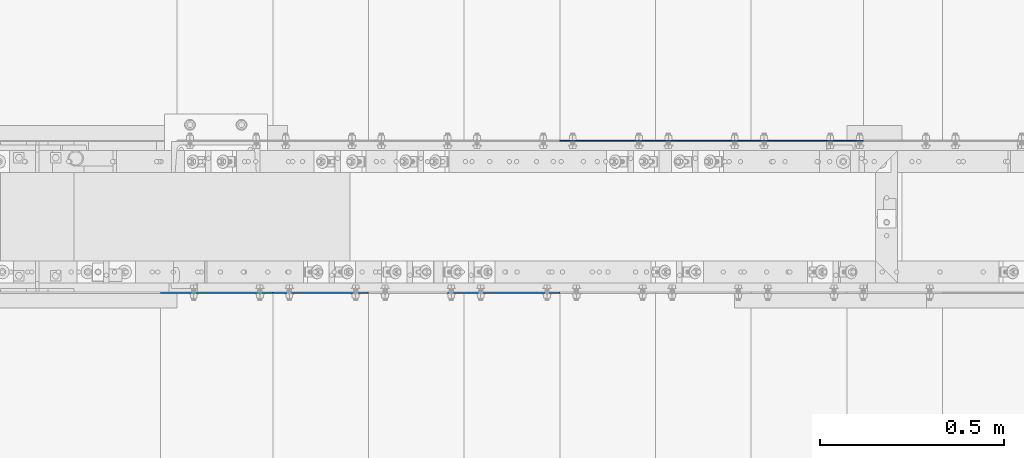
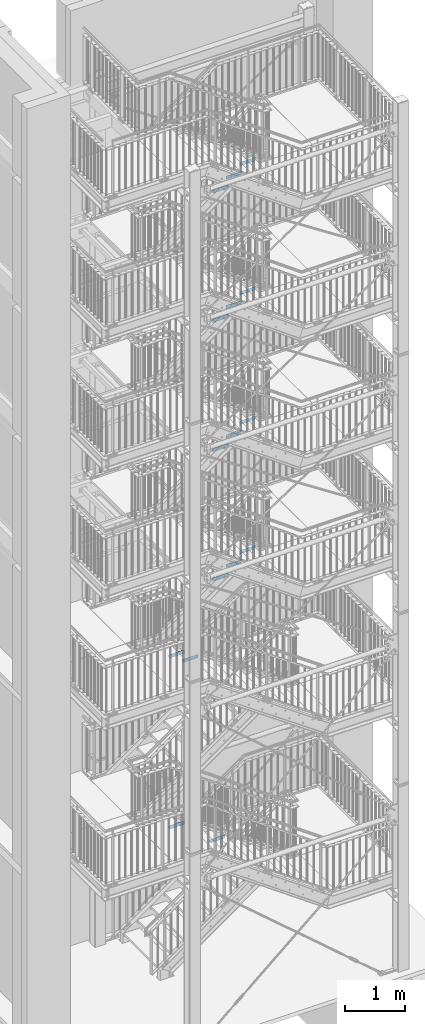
# One storey, part 172 of 825: 16 plates, 32 openings.
"""IFC2X3 building model written with IfcOpenShell, lengths in millimetres."""

import ifcopenshell
import ifcopenshell.guid

model = None  # the IFC model being written
_history = None  # IfcOwnerHistory: only IFC2X3 demands one
_inside = {}  # id of a spatial element -> (the spatial element, [elements in it])
_under = {}  # id of a project, library or spatial element -> (it, [spatial elements below it])
_declared = {}  # id of a project -> (the project, [libraries it declares])
_typed = {}  # id of a type object -> (the type object, [elements of that type])
_made_of = {}  # id of a material, layer set ... -> (it, [elements and type objects made of it])


def new_model(schema):
    """Start an empty IFC model of exactly this schema.

    Asked for "IFC4X3", IfcOpenShell would pick the latest addendum, in which some entities
    have other attributes; the version numbers below select the first issue.
    IFC2X3 requires an IfcOwnerHistory on every rooted entity: one is made here for all.
    """
    global model, _history
    if schema == "IFC4X3":
        model = ifcopenshell.file(schema_version=(4, 3, 0, 0))
    else:
        model = ifcopenshell.file(schema=schema)
    _inside.clear()
    _under.clear()
    _declared.clear()
    _typed.clear()
    _made_of.clear()
    _history = None
    if model.schema == "IFC2X3":
        org = make("IfcOrganization", Name="unknown")
        user = make(
            "IfcPersonAndOrganization",
            ThePerson=make("IfcPerson", FamilyName="unknown"),
            TheOrganization=org,
        )
        app = make(
            "IfcApplication",
            ApplicationDeveloper=org,
            Version="unknown",
            ApplicationFullName="unknown",
            ApplicationIdentifier="unknown",
        )
        _history = make(
            "IfcOwnerHistory",
            OwningUser=user,
            OwningApplication=app,
            ChangeAction="ADDED",
            CreationDate=0,
        )
    return model


def make(cls, **values):
    """One entity of the class cls with the attributes given. An attribute that is None is left unset."""
    return model.create_entity(
        cls, **{name: value for name, value in values.items() if value is not None}
    )


def entity(cls, *values):
    """Any entity or typed value of the class cls, its attributes in the order of the schema. None: left unset."""
    e = model.create_entity(cls)
    for i, value in enumerate(values):
        if value is not None:
            e[i] = value
    return e


def rooted(cls, **values):
    """An entity with a GlobalId (a new one), such as an element, a storey or a relation."""
    return make(cls, GlobalId=ifcopenshell.guid.new(), OwnerHistory=_history, **values)


def si_unit(unit_type, name, prefix=None):
    """IfcSIUnit, for example si_unit("LENGTHUNIT", "METRE", prefix="MILLI")."""
    return make("IfcSIUnit", UnitType=unit_type, Prefix=prefix, Name=name)


def converted_unit(unit_type, name, factor, base, dimensions=None, offset=None):
    """IfcConversionBasedUnit, such as the inch: factor (a typed value) times the base unit."""
    return make(
        "IfcConversionBasedUnit"
        if offset is None
        else "IfcConversionBasedUnitWithOffset",
        ConversionOffset=offset,
        Dimensions=None
        if dimensions is None
        else entity("IfcDimensionalExponents", *dimensions),
        UnitType=unit_type,
        Name=name,
        ConversionFactor=make(
            "IfcMeasureWithUnit", ValueComponent=factor, UnitComponent=base
        ),
    )


def assignment(units):
    """IfcUnitAssignment: the units of a project."""
    return None if units is None else make("IfcUnitAssignment", Units=units)


def point(xyz):
    """IfcCartesianPoint."""
    return None if xyz is None else make("IfcCartesianPoint", Coordinates=xyz)


def direction(xyz):
    """IfcDirection."""
    return None if xyz is None else make("IfcDirection", DirectionRatios=xyz)


def frame(location, z_axis=None, x_axis=None):
    """IfcAxis2Placement3D, a coordinate frame: its origin and axes. An axis left out is left unset."""
    return make(
        "IfcAxis2Placement3D",
        Location=point(location),
        Axis=direction(z_axis),
        RefDirection=direction(x_axis),
    )


def frame_2d(location, x_axis=None):
    """IfcAxis2Placement2D, a coordinate frame in the plane: its origin and x axis."""
    return make(
        "IfcAxis2Placement2D", Location=point(location), RefDirection=direction(x_axis)
    )


def origin():
    """The frame at (0, 0, 0) with its axes left unset."""
    return frame((0.0, 0.0, 0.0))


def origin_with_axes():
    """The frame at (0, 0, 0) with the z axis (0, 0, 1) and the x axis (1, 0, 0) written out."""
    return frame((0.0, 0.0, 0.0), z_axis=(0.0, 0.0, 1.0), x_axis=(1.0, 0.0, 0.0))


def origin_2d_with_axis():
    """The frame at (0, 0) in the plane with the x axis (1, 0) written out."""
    return frame_2d((0.0, 0.0), x_axis=(1.0, 0.0))


def place(relative_to, where):
    """IfcLocalPlacement: puts the frame where relative to a parent placement (None: the world)."""
    return make(
        "IfcLocalPlacement", PlacementRelTo=relative_to, RelativePlacement=where
    )


def context(
    kind, dimensions, precision=None, world=None, true_north=None, identifier=None
):
    """IfcGeometricRepresentationContext, for example the 3D "Model" context."""
    return make(
        "IfcGeometricRepresentationContext",
        ContextIdentifier=identifier,
        ContextType=kind,
        CoordinateSpaceDimension=dimensions,
        Precision=precision,
        WorldCoordinateSystem=world,
        TrueNorth=true_north,
    )


def project(units=None, contexts=None):
    """IfcProject with its units and contexts."""
    return rooted(
        "IfcProject",
        Name="project",
        RepresentationContexts=contexts,
        UnitsInContext=assignment(units),
    )


def spatial(cls, under=None, at=None, **own):
    """A site, building, storey or space (cls), placed at a placement, below another one or the project."""
    s = rooted(cls, ObjectPlacement=at, **own)
    if under is not None:
        _under.setdefault(under.id(), (under, []))[1].append(s)
    return s


def polyline(points):
    """IfcPolyline through the points."""
    return make("IfcPolyline", Points=[point(p) for p in points])


def circle_curve(where, radius):
    """IfcCircle in the frame where."""
    return make("IfcCircle", Position=where, Radius=radius)


def line_curve(start, along, magnitude):
    """IfcLine from a point along a vector."""
    return make(
        "IfcLine",
        Pnt=point(start),
        Dir=make("IfcVector", Orientation=direction(along), Magnitude=magnitude),
    )


def trimmed(basis, trim1, trim2, sense, master):
    """IfcTrimmedCurve: the piece of a basis curve between two trims."""
    return make(
        "IfcTrimmedCurve",
        BasisCurve=basis,
        Trim1=trim1,
        Trim2=trim2,
        SenseAgreement=sense,
        MasterRepresentation=master,
    )


def segment(curve, same_sense, transition):
    """IfcCompositeCurveSegment."""
    return make(
        "IfcCompositeCurveSegment",
        Transition=transition,
        SameSense=same_sense,
        ParentCurve=curve,
    )


def composite_curve(segments, self_intersect=None):
    """IfcCompositeCurve: segments joined end to end."""
    return make("IfcCompositeCurve", Segments=segments, SelfIntersect=self_intersect)


def profile(cls, at=None, kind="AREA", **sizes):
    """A parametric profile (cls). Its sizes go by their IFC names, for example OverallWidth=200.0."""
    return make(cls, ProfileType=kind, Position=at, **sizes)


def circle(**sizes):
    """IfcCircleProfileDef."""
    return profile("IfcCircleProfileDef", **sizes)


def outline(outer, holes=None, kind="AREA"):
    """IfcArbitraryClosedProfileDef: a profile drawn as a closed curve; with holes, ...WithVoids."""
    if holes is None:
        return make("IfcArbitraryClosedProfileDef", ProfileType=kind, OuterCurve=outer)
    return make(
        "IfcArbitraryProfileDefWithVoids",
        ProfileType=kind,
        OuterCurve=outer,
        InnerCurves=holes,
    )


def extrude(swept, where, along, depth):
    """IfcExtrudedAreaSolid: the profile swept, set in the frame where, extruded along a direction by depth."""
    return make(
        "IfcExtrudedAreaSolid",
        SweptArea=swept,
        Position=where,
        ExtrudedDirection=direction(along),
        Depth=depth,
    )


def shape(context_of_items, identifier, shape_type, items):
    """IfcShapeRepresentation: the items that make up one representation, for example the "Body"."""
    return make(
        "IfcShapeRepresentation",
        ContextOfItems=context_of_items,
        RepresentationIdentifier=identifier,
        RepresentationType=shape_type,
        Items=items,
    )


def material(Name=None, Category=None):
    """IfcMaterial."""
    return make("IfcMaterial", Name=Name, Category=Category)


def layer(
    of_material, thickness, ventilated=None, Name=None, Category=None, Priority=None
):
    """IfcMaterialLayer: one layer of a wall or slab, of a material (None: an air gap)."""
    return make(
        "IfcMaterialLayer",
        Material=of_material,
        LayerThickness=thickness,
        IsVentilated=ventilated,
        Name=Name,
        Category=Category,
        Priority=Priority,
    )


def layer_set(layers, Name=None):
    """IfcMaterialLayerSet."""
    return make("IfcMaterialLayerSet", MaterialLayers=layers, LayerSetName=Name)


def made_of(thing, what):
    """Note that an element or type object is made of a material, layer set ...; save() writes the relation."""
    if what is not None:
        _made_of.setdefault(what.id(), (what, []))[1].append(thing)
    return thing


def element(
    cls,
    number,
    at=None,
    inside=None,
    cuts=None,
    type_object=None,
    material=None,
    context=None,
    identifier="Body",
    shape_type=None,
    held_by="IfcProductDefinitionShape",
    body=None,
    shapes=None,
    **own,
):
    """One element of the class cls, such as IfcWall. Its Tag is "e" and its number.

    at: its placement. inside: the storey or other place that contains it. cuts: it is an
    opening in that element (IfcRelVoidsElement). A single representation is given by context,
    identifier, shape_type and body (its items); several are given by shapes. held_by: the class
    of the entity that holds the representations. save() writes the other relations.
    """
    e = rooted(cls, Tag="e%d" % number, ObjectPlacement=at, **own)
    if body is not None:
        shapes = [shape(context, identifier, shape_type, body)]
    if shapes is not None:
        e.Representation = make(held_by, Representations=shapes)
    if inside is not None:
        _inside.setdefault(inside.id(), (inside, []))[1].append(e)
    if cuts is not None:
        rooted(
            "IfcRelVoidsElement", RelatingBuildingElement=cuts, RelatedOpeningElement=e
        )
    if type_object is not None:
        _typed.setdefault(type_object.id(), (type_object, []))[1].append(e)
    return made_of(e, material)


def aggregate(whole, parts):
    """IfcRelAggregates: a whole, such as a stair, and the parts it consists of."""
    return rooted("IfcRelAggregates", RelatingObject=whole, RelatedObjects=parts)


def save(model, path):
    """Write the relations noted so far, then the file.

    IfcRelAggregates (storeys below a building ...), IfcRelContainedInSpatialStructure (elements
    in a storey), IfcRelDefinesByType, IfcRelAssociatesMaterial and IfcRelDeclares: one each for
    every whole, place, type object, material and project.
    """
    for whole, parts in _under.values():
        aggregate(whole, parts)
    for where, things in _inside.values():
        rooted(
            "IfcRelContainedInSpatialStructure",
            RelatedElements=things,
            RelatingStructure=where,
        )
    for kind, things in _typed.values():
        rooted("IfcRelDefinesByType", RelatedObjects=things, RelatingType=kind)
    for what, things in _made_of.values():
        rooted("IfcRelAssociatesMaterial", RelatedObjects=things, RelatingMaterial=what)
    for by, libraries in _declared.values():
        rooted("IfcRelDeclares", RelatingContext=by, RelatedDefinitions=libraries)
    model.write(path)


model = new_model("IFC2X3")

# Units and contexts
model_context = context("Model", 3, precision=1e-09, world=origin_with_axes())
ifc_project = project(units=[si_unit("LENGTHUNIT", "METRE", prefix="MILLI"), si_unit("AREAUNIT", "SQUARE_METRE"), si_unit("VOLUMEUNIT", "CUBIC_METRE"), converted_unit("PLANEANGLEUNIT", "DEGREE", entity("IfcPlaneAngleMeasure", 0.01745329), si_unit("PLANEANGLEUNIT", "RADIAN"), dimensions=[0, 0, 0, 0, 0, 0, 0])], contexts=[model_context])

# Site, building, storey
site_placement = place(None, origin_with_axes())
site = spatial("IfcSite", under=ifc_project, at=site_placement, Name="Cnopf'sche Kinderklinik", CompositionType="ELEMENT")
building_placement = place(site_placement, origin_with_axes())
building = spatial("IfcBuilding", under=site, at=building_placement, Name="Struktur 1", CompositionType="ELEMENT")
storey_placement = place(building_placement, origin_with_axes())
storey = spatial("IfcBuildingStorey", under=building, at=storey_placement, Name="Default Storey", CompositionType="ELEMENT", Elevation=0.0)

# Plate, openings
ifc_material = material(Name="S235JR")
ifc_layer = layer(ifc_material, 3.0)
ifc_layer_set = layer_set([ifc_layer], Name="S235JR")
plate_1_placement = place(None, frame((6276.713402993, 6149.736971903, 10742.571429), z_axis=(0.0, -1.0, 0.0), x_axis=(0.0, 0.0, -1.0)))
plate_1 = element("IfcPlate", 1, at=plate_1_placement, inside=storey, material=ifc_layer_set, Name="Grate_Step#24", ObjectType="Grate_Step#24", context=model_context, shape_type="SweptSolid", body=[
    extrude(outline(polyline([(0.0, 0.0), (70.0, 0.0), (70.0, 275.0), (40.0, 305.0), (0.0, 305.0), (0.0, 0.0)])), origin_with_axes(), (0.0, 0.0, 1.0), 3.0),
])
opening_1_placement = place(plate_1_placement, frame((55.0, 215.0, -0.5), z_axis=(0.0, 0.0, 1.0), x_axis=(0.0, 1.0, 0.0)))
element("IfcOpeningElement", 2, at=opening_1_placement, cuts=plate_1, ObjectType="Opening", context=model_context, shape_type="SweptSolid", body=[
    extrude(outline(composite_curve([segment(trimmed(line_curve((-9.5, -7.001), (1.0, 0.0), 19.0), [point((-9.5, -7.001))], [point((9.5, -7.001))], True, "CARTESIAN"), True, "CONTINUOUS"), segment(trimmed(circle_curve(frame_2d((9.5, 0.0), x_axis=(1.0, 0.0)), 7.001), [point((9.5, -7.001))], [point((9.5, 7.001))], True, "CARTESIAN"), True, "CONTINUOUS"), segment(trimmed(line_curve((9.5, 7.001), (-1.0, 0.0), 19.0), [point((9.5, 7.001))], [point((-9.5, 7.001))], True, "CARTESIAN"), True, "CONTINUOUS"), segment(trimmed(circle_curve(frame_2d((-9.5, 0.0), x_axis=(1.0, 0.0)), 7.001), [point((-9.5, 7.001))], [point((-9.5, -7.001))], True, "CARTESIAN"), True, "CONTINUOUS")], self_intersect=False)), origin(), (0.0, 0.0, 1.0), 4.0),
])
opening_2_placement = place(plate_1_placement, frame((55.0, 35.0, -0.5), z_axis=(0.0, 0.0, 1.0), x_axis=(0.0, 1.0, 0.0)))
element("IfcOpeningElement", 3, at=opening_2_placement, cuts=plate_1, ObjectType="Opening", context=model_context, shape_type="SweptSolid", body=[
    extrude(circle(Radius=7.001, at=origin_2d_with_axis()), origin(), (0.0, 0.0, 1.0), 4.0),
])

plate_2_placement = place(None, frame((6796.713402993, 6149.736971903, 11117.8571432), z_axis=(0.0, -1.0, 0.0), x_axis=(0.0, 0.0, -1.0)))
plate_2 = element("IfcPlate", 4, at=plate_2_placement, inside=storey, material=ifc_layer_set, Name="Grate_Step#38", ObjectType="Grate_Step#38", context=model_context, shape_type="SweptSolid", body=[
    extrude(outline(polyline([(0.0, 0.0), (70.0, 0.0), (70.0, 275.0), (40.0, 305.0), (0.0, 305.0), (0.0, 0.0)])), origin_with_axes(), (0.0, 0.0, 1.0), 3.0),
])
opening_3_placement = place(plate_2_placement, frame((55.0, 35.0, -0.5), z_axis=(0.0, 0.0, 1.0), x_axis=(0.0, 1.0, 0.0)))
element("IfcOpeningElement", 5, at=opening_3_placement, cuts=plate_2, ObjectType="Opening", context=model_context, shape_type="SweptSolid", body=[
    extrude(circle(Radius=7.001, at=origin_2d_with_axis()), origin(), (0.0, 0.0, 1.0), 4.0),
])
opening_4_placement = place(plate_2_placement, frame((55.0, 215.0, -0.5), z_axis=(0.0, 0.0, 1.0), x_axis=(0.0, 1.0, 0.0)))
element("IfcOpeningElement", 6, at=opening_4_placement, cuts=plate_2, ObjectType="Opening", context=model_context, shape_type="SweptSolid", body=[
    extrude(outline(composite_curve([segment(trimmed(line_curve((-9.5, -7.001), (1.0, 0.0), 19.0), [point((-9.5, -7.001))], [point((9.5, -7.001))], True, "CARTESIAN"), True, "CONTINUOUS"), segment(trimmed(circle_curve(frame_2d((9.5, 0.0), x_axis=(1.0, 0.0)), 7.001), [point((9.5, -7.001))], [point((9.5, 7.001))], True, "CARTESIAN"), True, "CONTINUOUS"), segment(trimmed(line_curve((9.5, 7.001), (-1.0, 0.0), 19.0), [point((9.5, 7.001))], [point((-9.5, 7.001))], True, "CARTESIAN"), True, "CONTINUOUS"), segment(trimmed(circle_curve(frame_2d((-9.5, 0.0), x_axis=(1.0, 0.0)), 7.001), [point((-9.5, 7.001))], [point((-9.5, -7.001))], True, "CARTESIAN"), True, "CONTINUOUS")], self_intersect=False)), origin(), (0.0, 0.0, 1.0), 4.0),
])

plate_3_placement = place(None, frame((6536.713402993, 6149.736971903, 10930.2142861), z_axis=(0.0, -1.0, 0.0), x_axis=(0.0, 0.0, -1.0)))
plate_3 = element("IfcPlate", 7, at=plate_3_placement, inside=storey, material=ifc_layer_set, Name="Grate_Step#31", ObjectType="Grate_Step#31", context=model_context, shape_type="SweptSolid", body=[
    extrude(outline(polyline([(0.0, 0.0), (70.0, 0.0), (70.0, 275.0), (40.0, 305.0), (0.0, 305.0), (0.0, 0.0)])), origin_with_axes(), (0.0, 0.0, 1.0), 3.0),
])
opening_5_placement = place(plate_3_placement, frame((55.0, 35.0, -0.5), z_axis=(0.0, 0.0, 1.0), x_axis=(0.0, 1.0, 0.0)))
element("IfcOpeningElement", 8, at=opening_5_placement, cuts=plate_3, ObjectType="Opening", context=model_context, shape_type="SweptSolid", body=[
    extrude(circle(Radius=7.001, at=origin_2d_with_axis()), origin(), (0.0, 0.0, 1.0), 4.0),
])
opening_6_placement = place(plate_3_placement, frame((55.0, 215.0, -0.5), z_axis=(0.0, 0.0, 1.0), x_axis=(0.0, 1.0, 0.0)))
element("IfcOpeningElement", 9, at=opening_6_placement, cuts=plate_3, ObjectType="Opening", context=model_context, shape_type="SweptSolid", body=[
    extrude(outline(composite_curve([segment(trimmed(line_curve((-9.5, -7.001), (1.0, 0.0), 19.0), [point((-9.5, -7.001))], [point((9.5, -7.001))], True, "CARTESIAN"), True, "CONTINUOUS"), segment(trimmed(circle_curve(frame_2d((9.5, 0.0), x_axis=(1.0, 0.0)), 7.001), [point((9.5, -7.001))], [point((9.5, 7.001))], True, "CARTESIAN"), True, "CONTINUOUS"), segment(trimmed(line_curve((9.5, 7.001), (-1.0, 0.0), 19.0), [point((9.5, 7.001))], [point((-9.5, 7.001))], True, "CARTESIAN"), True, "CONTINUOUS"), segment(trimmed(circle_curve(frame_2d((-9.5, 0.0), x_axis=(1.0, 0.0)), 7.001), [point((-9.5, 7.001))], [point((-9.5, -7.001))], True, "CARTESIAN"), True, "CONTINUOUS")], self_intersect=False)), origin(), (0.0, 0.0, 1.0), 4.0),
])

plate_4_placement = place(None, frame((6276.713402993, 6149.736971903, 8112.0), z_axis=(0.0, -1.0, 0.0), x_axis=(0.0, 0.0, -1.0)))
plate_4 = element("IfcPlate", 10, at=plate_4_placement, inside=storey, material=ifc_layer_set, Name="Grate_Step#24", ObjectType="Grate_Step#24", context=model_context, shape_type="SweptSolid", body=[
    extrude(outline(polyline([(0.0, 0.0), (70.0, 0.0), (70.0, 275.0), (40.0, 305.0), (0.0, 305.0), (0.0, 0.0)])), origin_with_axes(), (0.0, 0.0, 1.0), 3.0),
])
opening_7_placement = place(plate_4_placement, frame((55.0, 35.0, -0.5), z_axis=(0.0, 0.0, 1.0), x_axis=(0.0, 1.0, 0.0)))
element("IfcOpeningElement", 11, at=opening_7_placement, cuts=plate_4, ObjectType="Opening", context=model_context, shape_type="SweptSolid", body=[
    extrude(circle(Radius=7.001, at=origin_2d_with_axis()), origin(), (0.0, 0.0, 1.0), 4.0),
])
opening_8_placement = place(plate_4_placement, frame((55.0, 215.0, -0.5), z_axis=(0.0, 0.0, 1.0), x_axis=(0.0, 1.0, 0.0)))
element("IfcOpeningElement", 12, at=opening_8_placement, cuts=plate_4, ObjectType="Opening", context=model_context, shape_type="SweptSolid", body=[
    extrude(outline(composite_curve([segment(trimmed(line_curve((-9.5, -7.001), (1.0, 0.0), 19.0), [point((-9.5, -7.001))], [point((9.5, -7.001))], True, "CARTESIAN"), True, "CONTINUOUS"), segment(trimmed(circle_curve(frame_2d((9.5, 0.0), x_axis=(1.0, 0.0)), 7.001), [point((9.5, -7.001))], [point((9.5, 7.001))], True, "CARTESIAN"), True, "CONTINUOUS"), segment(trimmed(line_curve((9.5, 7.001), (-1.0, 0.0), 19.0), [point((9.5, 7.001))], [point((-9.5, 7.001))], True, "CARTESIAN"), True, "CONTINUOUS"), segment(trimmed(circle_curve(frame_2d((-9.5, 0.0), x_axis=(1.0, 0.0)), 7.001), [point((-9.5, 7.001))], [point((-9.5, -7.001))], True, "CARTESIAN"), True, "CONTINUOUS")], self_intersect=False)), origin(), (0.0, 0.0, 1.0), 4.0),
])

plate_5_placement = place(None, frame((6536.713402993, 6149.736971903, 8300.0), z_axis=(0.0, -1.0, 0.0), x_axis=(0.0, 0.0, -1.0)))
plate_5 = element("IfcPlate", 13, at=plate_5_placement, inside=storey, material=ifc_layer_set, Name="Grate_Step#31", ObjectType="Grate_Step#31", context=model_context, shape_type="SweptSolid", body=[
    extrude(outline(polyline([(0.0, 0.0), (70.0, 0.0), (70.0, 275.0), (40.0, 305.0), (0.0, 305.0), (0.0, 0.0)])), origin_with_axes(), (0.0, 0.0, 1.0), 3.0),
])
opening_9_placement = place(plate_5_placement, frame((55.0, 215.0, -0.5), z_axis=(0.0, 0.0, 1.0), x_axis=(0.0, 1.0, 0.0)))
element("IfcOpeningElement", 14, at=opening_9_placement, cuts=plate_5, ObjectType="Opening", context=model_context, shape_type="SweptSolid", body=[
    extrude(outline(composite_curve([segment(trimmed(line_curve((-9.5, -7.001), (1.0, 0.0), 19.0), [point((-9.5, -7.001))], [point((9.5, -7.001))], True, "CARTESIAN"), True, "CONTINUOUS"), segment(trimmed(circle_curve(frame_2d((9.5, 0.0), x_axis=(1.0, 0.0)), 7.001), [point((9.5, -7.001))], [point((9.5, 7.001))], True, "CARTESIAN"), True, "CONTINUOUS"), segment(trimmed(line_curve((9.5, 7.001), (-1.0, 0.0), 19.0), [point((9.5, 7.001))], [point((-9.5, 7.001))], True, "CARTESIAN"), True, "CONTINUOUS"), segment(trimmed(circle_curve(frame_2d((-9.5, 0.0), x_axis=(1.0, 0.0)), 7.001), [point((-9.5, 7.001))], [point((-9.5, -7.001))], True, "CARTESIAN"), True, "CONTINUOUS")], self_intersect=False)), origin(), (0.0, 0.0, 1.0), 4.0),
])
opening_10_placement = place(plate_5_placement, frame((55.0, 35.0, -0.5), z_axis=(0.0, 0.0, 1.0), x_axis=(0.0, 1.0, 0.0)))
element("IfcOpeningElement", 15, at=opening_10_placement, cuts=plate_5, ObjectType="Opening", context=model_context, shape_type="SweptSolid", body=[
    extrude(circle(Radius=7.001, at=origin_2d_with_axis()), origin(), (0.0, 0.0, 1.0), 4.0),
])

plate_6_placement = place(None, frame((6796.713402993, 6149.736971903, 8488.0), z_axis=(0.0, -1.0, 0.0), x_axis=(0.0, 0.0, -1.0)))
plate_6 = element("IfcPlate", 16, at=plate_6_placement, inside=storey, material=ifc_layer_set, Name="Grate_Step#38", ObjectType="Grate_Step#38", context=model_context, shape_type="SweptSolid", body=[
    extrude(outline(polyline([(0.0, 0.0), (70.0, 0.0), (70.0, 275.0), (40.0, 305.0), (0.0, 305.0), (0.0, 0.0)])), origin_with_axes(), (0.0, 0.0, 1.0), 3.0),
])
opening_11_placement = place(plate_6_placement, frame((55.0, 215.0, -0.5), z_axis=(0.0, 0.0, 1.0), x_axis=(0.0, 1.0, 0.0)))
element("IfcOpeningElement", 17, at=opening_11_placement, cuts=plate_6, ObjectType="Opening", context=model_context, shape_type="SweptSolid", body=[
    extrude(outline(composite_curve([segment(trimmed(line_curve((-9.5, -7.001), (1.0, 0.0), 19.0), [point((-9.5, -7.001))], [point((9.5, -7.001))], True, "CARTESIAN"), True, "CONTINUOUS"), segment(trimmed(circle_curve(frame_2d((9.5, 0.0), x_axis=(1.0, 0.0)), 7.001), [point((9.5, -7.001))], [point((9.5, 7.001))], True, "CARTESIAN"), True, "CONTINUOUS"), segment(trimmed(line_curve((9.5, 7.001), (-1.0, 0.0), 19.0), [point((9.5, 7.001))], [point((-9.5, 7.001))], True, "CARTESIAN"), True, "CONTINUOUS"), segment(trimmed(circle_curve(frame_2d((-9.5, 0.0), x_axis=(1.0, 0.0)), 7.001), [point((-9.5, 7.001))], [point((-9.5, -7.001))], True, "CARTESIAN"), True, "CONTINUOUS")], self_intersect=False)), origin(), (0.0, 0.0, 1.0), 4.0),
])
opening_12_placement = place(plate_6_placement, frame((55.0, 35.0, -0.5), z_axis=(0.0, 0.0, 1.0), x_axis=(0.0, 1.0, 0.0)))
element("IfcOpeningElement", 18, at=opening_12_placement, cuts=plate_6, ObjectType="Opening", context=model_context, shape_type="SweptSolid", body=[
    extrude(circle(Radius=7.001, at=origin_2d_with_axis()), origin(), (0.0, 0.0, 1.0), 4.0),
])

plate_7_placement = place(None, frame((6276.713402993, 6149.736971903, 13371.857143), z_axis=(0.0, -1.0, 0.0), x_axis=(0.0, 0.0, -1.0)))
plate_7 = element("IfcPlate", 19, at=plate_7_placement, inside=storey, material=ifc_layer_set, Name="Grate_Step#24", ObjectType="Grate_Step#24", context=model_context, shape_type="SweptSolid", body=[
    extrude(outline(polyline([(0.0, 0.0), (70.0, 0.0), (70.0, 275.0), (40.0, 305.0), (0.0, 305.0), (0.0, 0.0)])), origin_with_axes(), (0.0, 0.0, 1.0), 3.0),
])
opening_13_placement = place(plate_7_placement, frame((55.0, 35.0, -0.5), z_axis=(0.0, 0.0, 1.0), x_axis=(0.0, 1.0, 0.0)))
element("IfcOpeningElement", 20, at=opening_13_placement, cuts=plate_7, ObjectType="Opening", context=model_context, shape_type="SweptSolid", body=[
    extrude(circle(Radius=7.001, at=origin_2d_with_axis()), origin(), (0.0, 0.0, 1.0), 4.0),
])
opening_14_placement = place(plate_7_placement, frame((55.0, 215.0, -0.5), z_axis=(0.0, 0.0, 1.0), x_axis=(0.0, 1.0, 0.0)))
element("IfcOpeningElement", 21, at=opening_14_placement, cuts=plate_7, ObjectType="Opening", context=model_context, shape_type="SweptSolid", body=[
    extrude(outline(composite_curve([segment(trimmed(line_curve((-9.5, -7.001), (1.0, 0.0), 19.0), [point((-9.5, -7.001))], [point((9.5, -7.001))], True, "CARTESIAN"), True, "CONTINUOUS"), segment(trimmed(circle_curve(frame_2d((9.5, 0.0), x_axis=(1.0, 0.0)), 7.001), [point((9.5, -7.001))], [point((9.5, 7.001))], True, "CARTESIAN"), True, "CONTINUOUS"), segment(trimmed(line_curve((9.5, 7.001), (-1.0, 0.0), 19.0), [point((9.5, 7.001))], [point((-9.5, 7.001))], True, "CARTESIAN"), True, "CONTINUOUS"), segment(trimmed(circle_curve(frame_2d((-9.5, 0.0), x_axis=(1.0, 0.0)), 7.001), [point((-9.5, 7.001))], [point((-9.5, -7.001))], True, "CARTESIAN"), True, "CONTINUOUS")], self_intersect=False)), origin(), (0.0, 0.0, 1.0), 4.0),
])

plate_8_placement = place(None, frame((6536.713402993, 6149.736971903, 13560.0714287), z_axis=(0.0, -1.0, 0.0), x_axis=(0.0, 0.0, -1.0)))
plate_8 = element("IfcPlate", 22, at=plate_8_placement, inside=storey, material=ifc_layer_set, Name="Grate_Step#31", ObjectType="Grate_Step#31", context=model_context, shape_type="SweptSolid", body=[
    extrude(outline(polyline([(0.0, 0.0), (70.0, 0.0), (70.0, 275.0), (40.0, 305.0), (0.0, 305.0), (0.0, 0.0)])), origin_with_axes(), (0.0, 0.0, 1.0), 3.0),
])
opening_15_placement = place(plate_8_placement, frame((55.0, 35.0, -0.5), z_axis=(0.0, 0.0, 1.0), x_axis=(0.0, 1.0, 0.0)))
element("IfcOpeningElement", 23, at=opening_15_placement, cuts=plate_8, ObjectType="Opening", context=model_context, shape_type="SweptSolid", body=[
    extrude(circle(Radius=7.001, at=origin_2d_with_axis()), origin(), (0.0, 0.0, 1.0), 4.0),
])
opening_16_placement = place(plate_8_placement, frame((55.0, 215.0, -0.5), z_axis=(0.0, 0.0, 1.0), x_axis=(0.0, 1.0, 0.0)))
element("IfcOpeningElement", 24, at=opening_16_placement, cuts=plate_8, ObjectType="Opening", context=model_context, shape_type="SweptSolid", body=[
    extrude(outline(composite_curve([segment(trimmed(line_curve((-9.5, -7.001), (1.0, 0.0), 19.0), [point((-9.5, -7.001))], [point((9.5, -7.001))], True, "CARTESIAN"), True, "CONTINUOUS"), segment(trimmed(circle_curve(frame_2d((9.5, 0.0), x_axis=(1.0, 0.0)), 7.001), [point((9.5, -7.001))], [point((9.5, 7.001))], True, "CARTESIAN"), True, "CONTINUOUS"), segment(trimmed(line_curve((9.5, 7.001), (-1.0, 0.0), 19.0), [point((9.5, 7.001))], [point((-9.5, 7.001))], True, "CARTESIAN"), True, "CONTINUOUS"), segment(trimmed(circle_curve(frame_2d((-9.5, 0.0), x_axis=(1.0, 0.0)), 7.001), [point((-9.5, 7.001))], [point((-9.5, -7.001))], True, "CARTESIAN"), True, "CONTINUOUS")], self_intersect=False)), origin(), (0.0, 0.0, 1.0), 4.0),
])

plate_9_placement = place(None, frame((6796.713402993, 6149.736971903, 13748.2857144), z_axis=(0.0, -1.0, 0.0), x_axis=(0.0, 0.0, -1.0)))
plate_9 = element("IfcPlate", 25, at=plate_9_placement, inside=storey, material=ifc_layer_set, Name="Grate_Step#38", ObjectType="Grate_Step#38", context=model_context, shape_type="SweptSolid", body=[
    extrude(outline(polyline([(0.0, 0.0), (70.0, 0.0), (70.0, 275.0), (40.0, 305.0), (0.0, 305.0), (0.0, 0.0)])), origin_with_axes(), (0.0, 0.0, 1.0), 3.0),
])
opening_17_placement = place(plate_9_placement, frame((55.0, 35.0, -0.5), z_axis=(0.0, 0.0, 1.0), x_axis=(0.0, 1.0, 0.0)))
element("IfcOpeningElement", 26, at=opening_17_placement, cuts=plate_9, ObjectType="Opening", context=model_context, shape_type="SweptSolid", body=[
    extrude(circle(Radius=7.001, at=origin_2d_with_axis()), origin(), (0.0, 0.0, 1.0), 4.0),
])
opening_18_placement = place(plate_9_placement, frame((55.0, 215.0, -0.5), z_axis=(0.0, 0.0, 1.0), x_axis=(0.0, 1.0, 0.0)))
element("IfcOpeningElement", 27, at=opening_18_placement, cuts=plate_9, ObjectType="Opening", context=model_context, shape_type="SweptSolid", body=[
    extrude(outline(composite_curve([segment(trimmed(line_curve((-9.5, -7.001), (1.0, 0.0), 19.0), [point((-9.5, -7.001))], [point((9.5, -7.001))], True, "CARTESIAN"), True, "CONTINUOUS"), segment(trimmed(circle_curve(frame_2d((9.5, 0.0), x_axis=(1.0, 0.0)), 7.001), [point((9.5, -7.001))], [point((9.5, 7.001))], True, "CARTESIAN"), True, "CONTINUOUS"), segment(trimmed(line_curve((9.5, 7.001), (-1.0, 0.0), 19.0), [point((9.5, 7.001))], [point((-9.5, 7.001))], True, "CARTESIAN"), True, "CONTINUOUS"), segment(trimmed(circle_curve(frame_2d((-9.5, 0.0), x_axis=(1.0, 0.0)), 7.001), [point((-9.5, 7.001))], [point((-9.5, -7.001))], True, "CARTESIAN"), True, "CONTINUOUS")], self_intersect=False)), origin(), (0.0, 0.0, 1.0), 4.0),
])

plate_10_placement = place(None, frame((6276.713402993, 6149.736971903, 16002.571429), z_axis=(0.0, -1.0, 0.0), x_axis=(0.0, 0.0, -1.0)))
plate_10 = element("IfcPlate", 28, at=plate_10_placement, inside=storey, material=ifc_layer_set, Name="Grate_Step#24", ObjectType="Grate_Step#24", context=model_context, shape_type="SweptSolid", body=[
    extrude(outline(polyline([(0.0, 0.0), (70.0, 0.0), (70.0, 275.0), (40.0, 305.0), (0.0, 305.0), (0.0, 0.0)])), origin_with_axes(), (0.0, 0.0, 1.0), 3.0),
])
opening_19_placement = place(plate_10_placement, frame((55.0, 35.0, -0.5), z_axis=(0.0, 0.0, 1.0), x_axis=(0.0, 1.0, 0.0)))
element("IfcOpeningElement", 29, at=opening_19_placement, cuts=plate_10, ObjectType="Opening", context=model_context, shape_type="SweptSolid", body=[
    extrude(circle(Radius=7.001, at=origin_2d_with_axis()), origin(), (0.0, 0.0, 1.0), 4.0),
])
opening_20_placement = place(plate_10_placement, frame((55.0, 215.0, -0.5), z_axis=(0.0, 0.0, 1.0), x_axis=(0.0, 1.0, 0.0)))
element("IfcOpeningElement", 30, at=opening_20_placement, cuts=plate_10, ObjectType="Opening", context=model_context, shape_type="SweptSolid", body=[
    extrude(outline(composite_curve([segment(trimmed(line_curve((-9.5, -7.001), (1.0, 0.0), 19.0), [point((-9.5, -7.001))], [point((9.5, -7.001))], True, "CARTESIAN"), True, "CONTINUOUS"), segment(trimmed(circle_curve(frame_2d((9.5, 0.0), x_axis=(1.0, 0.0)), 7.001), [point((9.5, -7.001))], [point((9.5, 7.001))], True, "CARTESIAN"), True, "CONTINUOUS"), segment(trimmed(line_curve((9.5, 7.001), (-1.0, 0.0), 19.0), [point((9.5, 7.001))], [point((-9.5, 7.001))], True, "CARTESIAN"), True, "CONTINUOUS"), segment(trimmed(circle_curve(frame_2d((-9.5, 0.0), x_axis=(1.0, 0.0)), 7.001), [point((-9.5, 7.001))], [point((-9.5, -7.001))], True, "CARTESIAN"), True, "CONTINUOUS")], self_intersect=False)), origin(), (0.0, 0.0, 1.0), 4.0),
])

plate_11_placement = place(None, frame((6536.713402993, 6149.736971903, 16189.7142861), z_axis=(0.0, -1.0, 0.0), x_axis=(0.0, 0.0, -1.0)))
plate_11 = element("IfcPlate", 31, at=plate_11_placement, inside=storey, material=ifc_layer_set, Name="Grate_Step#31", ObjectType="Grate_Step#31", context=model_context, shape_type="SweptSolid", body=[
    extrude(outline(polyline([(0.0, 0.0), (70.0, 0.0), (70.0, 275.0), (40.0, 305.0), (0.0, 305.0), (0.0, 0.0)])), origin_with_axes(), (0.0, 0.0, 1.0), 3.0),
])
opening_21_placement = place(plate_11_placement, frame((55.0, 35.0, -0.5), z_axis=(0.0, 0.0, 1.0), x_axis=(0.0, 1.0, 0.0)))
element("IfcOpeningElement", 32, at=opening_21_placement, cuts=plate_11, ObjectType="Opening", context=model_context, shape_type="SweptSolid", body=[
    extrude(circle(Radius=7.001, at=origin_2d_with_axis()), origin(), (0.0, 0.0, 1.0), 4.0),
])
opening_22_placement = place(plate_11_placement, frame((55.0, 215.0, -0.5), z_axis=(0.0, 0.0, 1.0), x_axis=(0.0, 1.0, 0.0)))
element("IfcOpeningElement", 33, at=opening_22_placement, cuts=plate_11, ObjectType="Opening", context=model_context, shape_type="SweptSolid", body=[
    extrude(outline(composite_curve([segment(trimmed(line_curve((-9.5, -7.001), (1.0, 0.0), 19.0), [point((-9.5, -7.001))], [point((9.5, -7.001))], True, "CARTESIAN"), True, "CONTINUOUS"), segment(trimmed(circle_curve(frame_2d((9.5, 0.0), x_axis=(1.0, 0.0)), 7.001), [point((9.5, -7.001))], [point((9.5, 7.001))], True, "CARTESIAN"), True, "CONTINUOUS"), segment(trimmed(line_curve((9.5, 7.001), (-1.0, 0.0), 19.0), [point((9.5, 7.001))], [point((-9.5, 7.001))], True, "CARTESIAN"), True, "CONTINUOUS"), segment(trimmed(circle_curve(frame_2d((-9.5, 0.0), x_axis=(1.0, 0.0)), 7.001), [point((-9.5, 7.001))], [point((-9.5, -7.001))], True, "CARTESIAN"), True, "CONTINUOUS")], self_intersect=False)), origin(), (0.0, 0.0, 1.0), 4.0),
])

plate_12_placement = place(None, frame((6796.713402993, 6149.736971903, 16376.8571432), z_axis=(0.0, -1.0, 0.0), x_axis=(0.0, 0.0, -1.0)))
plate_12 = element("IfcPlate", 34, at=plate_12_placement, inside=storey, material=ifc_layer_set, Name="Grate_Step#38", ObjectType="Grate_Step#38", context=model_context, shape_type="SweptSolid", body=[
    extrude(outline(polyline([(0.0, 0.0), (70.0, 0.0), (70.0, 275.0), (40.0, 305.0), (0.0, 305.0), (0.0, 0.0)])), origin_with_axes(), (0.0, 0.0, 1.0), 3.0),
])
opening_23_placement = place(plate_12_placement, frame((55.0, 215.0, -0.5), z_axis=(0.0, 0.0, 1.0), x_axis=(0.0, 1.0, 0.0)))
element("IfcOpeningElement", 35, at=opening_23_placement, cuts=plate_12, ObjectType="Opening", context=model_context, shape_type="SweptSolid", body=[
    extrude(outline(composite_curve([segment(trimmed(line_curve((-9.5, -7.001), (1.0, 0.0), 19.0), [point((-9.5, -7.001))], [point((9.5, -7.001))], True, "CARTESIAN"), True, "CONTINUOUS"), segment(trimmed(circle_curve(frame_2d((9.5, 0.0), x_axis=(1.0, 0.0)), 7.001), [point((9.5, -7.001))], [point((9.5, 7.001))], True, "CARTESIAN"), True, "CONTINUOUS"), segment(trimmed(line_curve((9.5, 7.001), (-1.0, 0.0), 19.0), [point((9.5, 7.001))], [point((-9.5, 7.001))], True, "CARTESIAN"), True, "CONTINUOUS"), segment(trimmed(circle_curve(frame_2d((-9.5, 0.0), x_axis=(1.0, 0.0)), 7.001), [point((-9.5, 7.001))], [point((-9.5, -7.001))], True, "CARTESIAN"), True, "CONTINUOUS")], self_intersect=False)), origin(), (0.0, 0.0, 1.0), 4.0),
])
opening_24_placement = place(plate_12_placement, frame((55.0, 35.0, -0.5), z_axis=(0.0, 0.0, 1.0), x_axis=(0.0, 1.0, 0.0)))
element("IfcOpeningElement", 36, at=opening_24_placement, cuts=plate_12, ObjectType="Opening", context=model_context, shape_type="SweptSolid", body=[
    extrude(circle(Radius=7.001, at=origin_2d_with_axis()), origin(), (0.0, 0.0, 1.0), 4.0),
])

plate_13_placement = place(None, frame((5496.713402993, 5733.736971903, 7177.2105263), z_axis=(0.0, 1.0, 0.0), x_axis=(0.0, 0.0, -1.0)))
plate_13 = element("IfcPlate", 37, at=plate_13_placement, inside=storey, material=ifc_layer_set, Name="Grate_Step#52", ObjectType="Grate_Step#52", context=model_context, shape_type="SweptSolid", body=[
    extrude(outline(polyline([(0.0, 0.0), (70.0, 0.0), (70.0, 275.0), (40.0, 305.0), (0.0, 305.0), (0.0, 0.0)])), origin_with_axes(), (0.0, 0.0, 1.0), 3.0),
])
opening_25_placement = place(plate_13_placement, frame((55.0, 215.0, -0.5), z_axis=(0.0, 0.0, 1.0), x_axis=(0.0, 1.0, 0.0)))
element("IfcOpeningElement", 38, at=opening_25_placement, cuts=plate_13, ObjectType="Opening", context=model_context, shape_type="SweptSolid", body=[
    extrude(outline(composite_curve([segment(trimmed(line_curve((-9.5, -7.001), (1.0, 0.0), 19.0), [point((-9.5, -7.001))], [point((9.5, -7.001))], True, "CARTESIAN"), True, "CONTINUOUS"), segment(trimmed(circle_curve(frame_2d((9.5, 0.0), x_axis=(1.0, 0.0)), 7.001), [point((9.5, -7.001))], [point((9.5, 7.001))], True, "CARTESIAN"), True, "CONTINUOUS"), segment(trimmed(line_curve((9.5, 7.001), (-1.0, 0.0), 19.0), [point((9.5, 7.001))], [point((-9.5, 7.001))], True, "CARTESIAN"), True, "CONTINUOUS"), segment(trimmed(circle_curve(frame_2d((-9.5, 0.0), x_axis=(1.0, 0.0)), 7.001), [point((-9.5, 7.001))], [point((-9.5, -7.001))], True, "CARTESIAN"), True, "CONTINUOUS")], self_intersect=False)), origin(), (0.0, 0.0, 1.0), 4.0),
])
opening_26_placement = place(plate_13_placement, frame((55.0, 35.0, -0.5), z_axis=(0.0, 0.0, 1.0), x_axis=(0.0, 1.0, 0.0)))
element("IfcOpeningElement", 39, at=opening_26_placement, cuts=plate_13, ObjectType="Opening", context=model_context, shape_type="SweptSolid", body=[
    extrude(circle(Radius=7.001, at=origin_2d_with_axis()), origin(), (0.0, 0.0, 1.0), 4.0),
])

plate_14_placement = place(None, frame((5496.713402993, 5733.736971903, 3701.8947368), z_axis=(0.0, 1.0, 0.0), x_axis=(0.0, 0.0, -1.0)))
plate_14 = element("IfcPlate", 40, at=plate_14_placement, inside=storey, material=ifc_layer_set, Name="Grate_Step#52", ObjectType="Grate_Step#52", context=model_context, shape_type="SweptSolid", body=[
    extrude(outline(polyline([(0.0, 0.0), (70.0, 0.0), (70.0, 275.0), (40.0, 305.0), (0.0, 305.0), (0.0, 0.0)])), origin_with_axes(), (0.0, 0.0, 1.0), 3.0),
])
opening_27_placement = place(plate_14_placement, frame((55.0, 215.0, -0.5), z_axis=(0.0, 0.0, 1.0), x_axis=(0.0, 1.0, 0.0)))
element("IfcOpeningElement", 41, at=opening_27_placement, cuts=plate_14, ObjectType="Opening", context=model_context, shape_type="SweptSolid", body=[
    extrude(outline(composite_curve([segment(trimmed(line_curve((-9.5, -7.001), (1.0, 0.0), 19.0), [point((-9.5, -7.001))], [point((9.5, -7.001))], True, "CARTESIAN"), True, "CONTINUOUS"), segment(trimmed(circle_curve(frame_2d((9.5, 0.0), x_axis=(1.0, 0.0)), 7.001), [point((9.5, -7.001))], [point((9.5, 7.001))], True, "CARTESIAN"), True, "CONTINUOUS"), segment(trimmed(line_curve((9.5, 7.001), (-1.0, 0.0), 19.0), [point((9.5, 7.001))], [point((-9.5, 7.001))], True, "CARTESIAN"), True, "CONTINUOUS"), segment(trimmed(circle_curve(frame_2d((-9.5, 0.0), x_axis=(1.0, 0.0)), 7.001), [point((-9.5, 7.001))], [point((-9.5, -7.001))], True, "CARTESIAN"), True, "CONTINUOUS")], self_intersect=False)), origin(), (0.0, 0.0, 1.0), 4.0),
])
opening_28_placement = place(plate_14_placement, frame((55.0, 35.0, -0.5), z_axis=(0.0, 0.0, 1.0), x_axis=(0.0, 1.0, 0.0)))
element("IfcOpeningElement", 42, at=opening_28_placement, cuts=plate_14, ObjectType="Opening", context=model_context, shape_type="SweptSolid", body=[
    extrude(circle(Radius=7.001, at=origin_2d_with_axis()), origin(), (0.0, 0.0, 1.0), 4.0),
])

plate_15_placement = place(None, frame((6276.713402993, 5733.736971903, 3146.5789472), z_axis=(0.0, 1.0, 0.0), x_axis=(0.0, 0.0, -1.0)))
plate_15 = element("IfcPlate", 43, at=plate_15_placement, inside=storey, material=ifc_layer_set, Name="Grate_Step#31", ObjectType="Grate_Step#31", context=model_context, shape_type="SweptSolid", body=[
    extrude(outline(polyline([(0.0, 0.0), (70.0, 0.0), (70.0, 275.0), (40.0, 305.0), (0.0, 305.0), (0.0, 0.0)])), origin_with_axes(), (0.0, 0.0, 1.0), 3.0),
])
opening_29_placement = place(plate_15_placement, frame((55.0, 35.0, -0.5), z_axis=(0.0, 0.0, 1.0), x_axis=(0.0, 1.0, 0.0)))
element("IfcOpeningElement", 44, at=opening_29_placement, cuts=plate_15, ObjectType="Opening", context=model_context, shape_type="SweptSolid", body=[
    extrude(circle(Radius=7.001, at=origin_2d_with_axis()), origin(), (0.0, 0.0, 1.0), 4.0),
])
opening_30_placement = place(plate_15_placement, frame((55.0, 215.0, -0.5), z_axis=(0.0, 0.0, 1.0), x_axis=(0.0, 1.0, 0.0)))
element("IfcOpeningElement", 45, at=opening_30_placement, cuts=plate_15, ObjectType="Opening", context=model_context, shape_type="SweptSolid", body=[
    extrude(outline(composite_curve([segment(trimmed(line_curve((-9.5, -7.001), (1.0, 0.0), 19.0), [point((-9.5, -7.001))], [point((9.5, -7.001))], True, "CARTESIAN"), True, "CONTINUOUS"), segment(trimmed(circle_curve(frame_2d((9.5, 0.0), x_axis=(1.0, 0.0)), 7.001), [point((9.5, -7.001))], [point((9.5, 7.001))], True, "CARTESIAN"), True, "CONTINUOUS"), segment(trimmed(line_curve((9.5, 7.001), (-1.0, 0.0), 19.0), [point((9.5, 7.001))], [point((-9.5, 7.001))], True, "CARTESIAN"), True, "CONTINUOUS"), segment(trimmed(circle_curve(frame_2d((-9.5, 0.0), x_axis=(1.0, 0.0)), 7.001), [point((-9.5, 7.001))], [point((-9.5, -7.001))], True, "CARTESIAN"), True, "CONTINUOUS")], self_intersect=False)), origin(), (0.0, 0.0, 1.0), 4.0),
])

plate_16_placement = place(None, frame((5756.713402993, 5733.736971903, 6994.4210526), z_axis=(0.0, 1.0, 0.0), x_axis=(0.0, 0.0, -1.0)))
plate_16 = element("IfcPlate", 46, at=plate_16_placement, inside=storey, material=ifc_layer_set, Name="Grate_Step#45", ObjectType="Grate_Step#45", context=model_context, shape_type="SweptSolid", body=[
    extrude(outline(polyline([(0.0, 0.0), (70.0, 0.0), (70.0, 275.0), (40.0, 305.0), (0.0, 305.0), (0.0, 0.0)])), origin_with_axes(), (0.0, 0.0, 1.0), 3.0),
])
opening_31_placement = place(plate_16_placement, frame((55.0, 35.0, -0.5), z_axis=(0.0, 0.0, 1.0), x_axis=(0.0, 1.0, 0.0)))
element("IfcOpeningElement", 47, at=opening_31_placement, cuts=plate_16, ObjectType="Opening", context=model_context, shape_type="SweptSolid", body=[
    extrude(circle(Radius=7.001, at=origin_2d_with_axis()), origin(), (0.0, 0.0, 1.0), 4.0),
])
opening_32_placement = place(plate_16_placement, frame((55.0, 215.0, -0.5), z_axis=(0.0, 0.0, 1.0), x_axis=(0.0, 1.0, 0.0)))
element("IfcOpeningElement", 48, at=opening_32_placement, cuts=plate_16, ObjectType="Opening", context=model_context, shape_type="SweptSolid", body=[
    extrude(outline(composite_curve([segment(trimmed(line_curve((-9.5, -7.001), (1.0, 0.0), 19.0), [point((-9.5, -7.001))], [point((9.5, -7.001))], True, "CARTESIAN"), True, "CONTINUOUS"), segment(trimmed(circle_curve(frame_2d((9.5, 0.0), x_axis=(1.0, 0.0)), 7.001), [point((9.5, -7.001))], [point((9.5, 7.001))], True, "CARTESIAN"), True, "CONTINUOUS"), segment(trimmed(line_curve((9.5, 7.001), (-1.0, 0.0), 19.0), [point((9.5, 7.001))], [point((-9.5, 7.001))], True, "CARTESIAN"), True, "CONTINUOUS"), segment(trimmed(circle_curve(frame_2d((-9.5, 0.0), x_axis=(1.0, 0.0)), 7.001), [point((-9.5, 7.001))], [point((-9.5, -7.001))], True, "CARTESIAN"), True, "CONTINUOUS")], self_intersect=False)), origin(), (0.0, 0.0, 1.0), 4.0),
])

save(model, "model.ifc")
